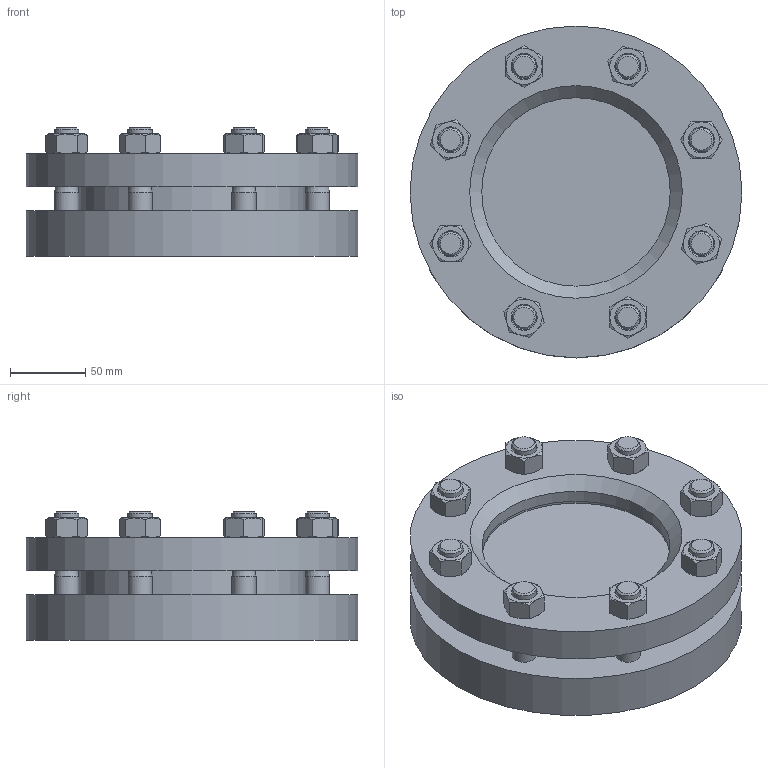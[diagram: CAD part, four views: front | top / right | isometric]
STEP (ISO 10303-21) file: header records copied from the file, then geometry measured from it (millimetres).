
FILE_DESCRIPTION(/* description */ ('Unknown'),/* implementation_level */ '2;1');
FILE_NAME(/* name */ 'Armatur 28120 DN 100 PN16',/* time_stamp */ '2016-08-08T07:27:14+02:00',/* author */ ('Unknown'),/* organization */ ('Unknown'),/* preprocessor_version */ 'ST-DEVELOPER v16.7',/* originating_system */ 'DEX',/* authorisation */ $);
FILE_SCHEMA (('AUTOMOTIVE_DESIGN {1 0 10303 214 3 1 1}'));
Length unit declared in the file: millimetre
Products named in the file (7): 0206.313.38_01; 1345.003.38_01; 0863.177.38_01; 1775.146.38_01; 1346.303.38_01; Stud_DIN_938_1995_CC_M16x55_v12.00; Nut_DIN_934_1987_M16_v10.50
Assembly tree (21 placements, depth 2):
  0206.313.38_01
    1345.003.38_01
    0863.177.38_01  x2
    1775.146.38_01
    1346.303.38_01
    Stud_DIN_938_1995_CC_M16x55_v12.00  x8
    Nut_DIN_934_1987_M16_v10.50  x8
Bounding box: 220 x 220 x 85 mm (x, y, z)
Volume: 1743929.7 mm3; surface area: 291871.9 mm2
Topology: 21 solids, 21 shells, 251 faces, 529 edges, 322 vertices
Faces by surface type: plane 92, cone 92, cylinder 67
Full cylindrical faces by diameter (mm): 13.835 x24, 16 x24, 18 x8, 125 x4, 150 x1, 152 x2, 153 x2, 220 x2
Entity records: 2794 total; most frequent: CARTESIAN_POINT 651, DIRECTION 364, ORIENTED_EDGE 192, AXIS2_PLACEMENT_3D 179, FACE_BOUND 172, EDGE_LOOP 164, VERTEX_POINT 98, EDGE_CURVE 96
